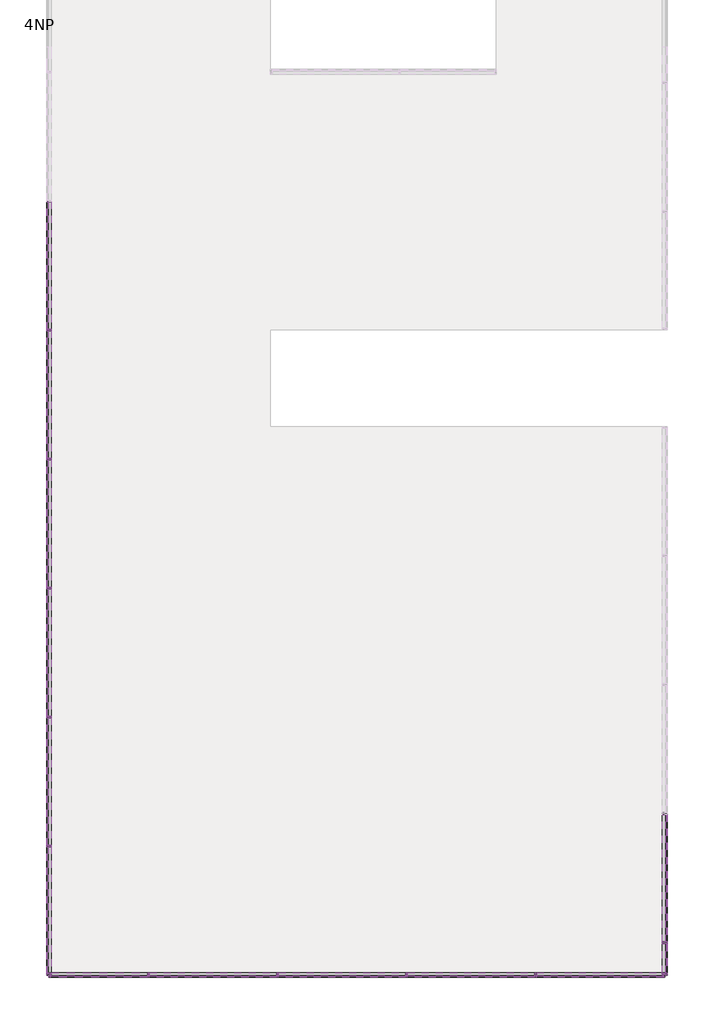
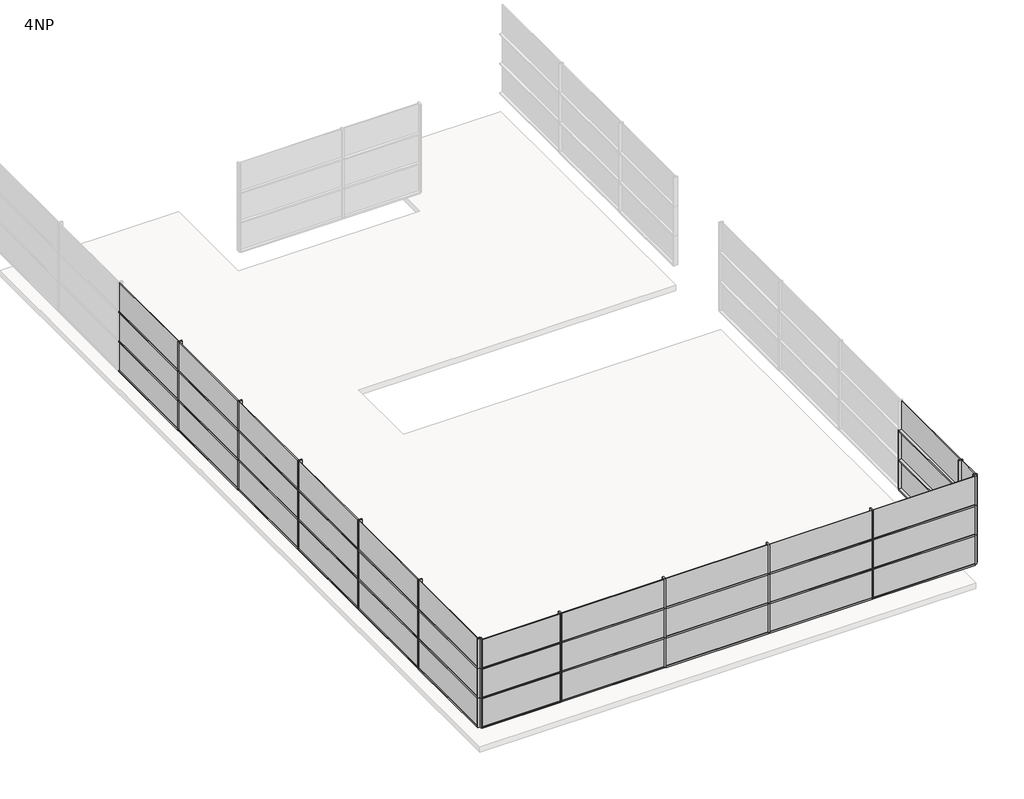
# One storey, part 1 of 3: 83 members, 39 plates.
"""IFC4 building model written with IfcOpenShell, lengths in millimetres."""

from ifc_helpers import new_model, si_unit, origin, place, context, project, spatial, transform, mapped, element, save
from components import rectangular_mullion_50_x_150mm_d99dc9be, rectangular_mullion_50_x_150mm_6588f46c, rectangular_mullion_50_x_150mm_a037c29c, rectangular_mullion_50_x_150mm_c2546fd4, rectangular_mullion_50_x_150mm_116cff39, rectangular_mullion_50_x_150mm_cd873b1a, system_panel_glazed_8e9402eb, system_panel_glazed_89ac83a7, system_panel_glazed_8c18451d, system_panel_glazed_2dc425e2

model = new_model("IFC4")

# Units and contexts
model_context = context("Model", 3, world=origin())
ifc_project = project(units=[si_unit("LENGTHUNIT", "METRE", prefix="MILLI")], contexts=[model_context])

# Site, building, storey
site = spatial("IfcSite", under=ifc_project)
building = spatial("IfcBuilding", under=site)
storey = spatial("IfcBuildingStorey", under=building, Name="4NP", Elevation=16000.0)

# Members
placement = place(None, origin())
rectangular_mullion_50_x_150mm_shape = rectangular_mullion_50_x_150mm_d99dc9be(model_context)
element("IfcMember", 1, ObjectType="Rectangular Mullion : 50 x 150mm", at=placement, inside=storey, context=model_context, shape_type="MappedRepresentation", body=[
    mapped(rectangular_mullion_50_x_150mm_shape, transform((13503.2660975, -18624.0160434, 18000.0), x_axis=(0.0, -1.0, 0.0), y_axis=(1.0, 0.0, 0.0), z_axis=(0.0, 0.0, 1.0))),
])
element("IfcMember", 2, ObjectType="Rectangular Mullion : 50 x 150mm", at=placement, inside=storey, context=model_context, shape_type="MappedRepresentation", body=[
    mapped(rectangular_mullion_50_x_150mm_shape, transform((13503.2660975, -18624.0160434, 19200.0), x_axis=(0.0, -1.0, 0.0), y_axis=(1.0, 0.0, 0.0), z_axis=(0.0, 0.0, 1.0))),
])
element("IfcMember", 3, ObjectType="Rectangular Mullion : 50 x 150mm", at=placement, inside=storey, context=model_context, shape_type="MappedRepresentation", body=[
    mapped(rectangular_mullion_50_x_150mm_shape, transform((13503.2660975, -22624.0160434, 18000.0), x_axis=(0.0, -1.0, 0.0), y_axis=(1.0, 0.0, 0.0), z_axis=(0.0, 0.0, 1.0))),
])
element("IfcMember", 4, ObjectType="Rectangular Mullion : 50 x 150mm", at=placement, inside=storey, context=model_context, shape_type="MappedRepresentation", body=[
    mapped(rectangular_mullion_50_x_150mm_shape, transform((13503.2660975, -22624.0160434, 19200.0), x_axis=(0.0, -1.0, 0.0), y_axis=(1.0, 0.0, 0.0), z_axis=(0.0, 0.0, 1.0))),
])
element("IfcMember", 5, ObjectType="Rectangular Mullion : 50 x 150mm", at=placement, inside=storey, context=model_context, shape_type="MappedRepresentation", body=[
    mapped(rectangular_mullion_50_x_150mm_shape, transform((13503.2660975, -22624.0160434, 20400.0), x_axis=(0.0, -1.0, 0.0), y_axis=(1.0, 0.0, 0.0), z_axis=(0.0, 0.0, 1.0))),
])
element("IfcMember", 6, ObjectType="Rectangular Mullion : 50 x 150mm", at=placement, inside=storey, context=model_context, shape_type="MappedRepresentation", body=[
    mapped(rectangular_mullion_50_x_150mm_shape, transform((9503.2660975, -23624.0160434, 18000.0), x_axis=(-1.0, 0.0, 0.0), y_axis=(0.0, -1.0, 0.0), z_axis=(0.0, 0.0, 1.0))),
])
element("IfcMember", 7, ObjectType="Rectangular Mullion : 50 x 150mm", at=placement, inside=storey, context=model_context, shape_type="MappedRepresentation", body=[
    mapped(rectangular_mullion_50_x_150mm_shape, transform((9503.2660975, -23624.0160434, 19200.0), x_axis=(-1.0, 0.0, 0.0), y_axis=(0.0, -1.0, 0.0), z_axis=(0.0, 0.0, 1.0))),
])
element("IfcMember", 8, ObjectType="Rectangular Mullion : 50 x 150mm", at=placement, inside=storey, context=model_context, shape_type="MappedRepresentation", body=[
    mapped(rectangular_mullion_50_x_150mm_shape, transform((9503.2660975, -23624.0160434, 20400.0), x_axis=(-1.0, 0.0, 0.0), y_axis=(0.0, -1.0, 0.0), z_axis=(0.0, 0.0, 1.0))),
])
element("IfcMember", 9, ObjectType="Rectangular Mullion : 50 x 150mm", at=placement, inside=storey, context=model_context, shape_type="MappedRepresentation", body=[
    mapped(rectangular_mullion_50_x_150mm_shape, transform((5503.2660975, -23624.0160434, 18000.0), x_axis=(-1.0, 0.0, 0.0), y_axis=(0.0, -1.0, 0.0), z_axis=(0.0, 0.0, 1.0))),
])
element("IfcMember", 10, ObjectType="Rectangular Mullion : 50 x 150mm", at=placement, inside=storey, context=model_context, shape_type="MappedRepresentation", body=[
    mapped(rectangular_mullion_50_x_150mm_shape, transform((5503.2660975, -23624.0160434, 19200.0), x_axis=(-1.0, 0.0, 0.0), y_axis=(0.0, -1.0, 0.0), z_axis=(0.0, 0.0, 1.0))),
])
element("IfcMember", 11, ObjectType="Rectangular Mullion : 50 x 150mm", at=placement, inside=storey, context=model_context, shape_type="MappedRepresentation", body=[
    mapped(rectangular_mullion_50_x_150mm_shape, transform((5503.2660975, -23624.0160434, 20400.0), x_axis=(-1.0, 0.0, 0.0), y_axis=(0.0, -1.0, 0.0), z_axis=(0.0, 0.0, 1.0))),
])
element("IfcMember", 12, ObjectType="Rectangular Mullion : 50 x 150mm", at=placement, inside=storey, context=model_context, shape_type="MappedRepresentation", body=[
    mapped(rectangular_mullion_50_x_150mm_shape, transform((1503.2660975, -23624.0160434, 18000.0), x_axis=(-1.0, 0.0, 0.0), y_axis=(0.0, -1.0, 0.0), z_axis=(0.0, 0.0, 1.0))),
])
element("IfcMember", 13, ObjectType="Rectangular Mullion : 50 x 150mm", at=placement, inside=storey, context=model_context, shape_type="MappedRepresentation", body=[
    mapped(rectangular_mullion_50_x_150mm_shape, transform((1503.2660975, -23624.0160434, 19200.0), x_axis=(-1.0, 0.0, 0.0), y_axis=(0.0, -1.0, 0.0), z_axis=(0.0, 0.0, 1.0))),
])
element("IfcMember", 14, ObjectType="Rectangular Mullion : 50 x 150mm", at=placement, inside=storey, context=model_context, shape_type="MappedRepresentation", body=[
    mapped(rectangular_mullion_50_x_150mm_shape, transform((1503.2660975, -23624.0160434, 20400.0), x_axis=(-1.0, 0.0, 0.0), y_axis=(0.0, -1.0, 0.0), z_axis=(0.0, 0.0, 1.0))),
])
element("IfcMember", 15, ObjectType="Rectangular Mullion : 50 x 150mm", at=placement, inside=storey, context=model_context, shape_type="MappedRepresentation", body=[
    mapped(rectangular_mullion_50_x_150mm_shape, transform((-2496.7339025, -23624.0160434, 18000.0), x_axis=(-1.0, 0.0, 0.0), y_axis=(0.0, -1.0, 0.0), z_axis=(0.0, 0.0, 1.0))),
])
element("IfcMember", 16, ObjectType="Rectangular Mullion : 50 x 150mm", at=placement, inside=storey, context=model_context, shape_type="MappedRepresentation", body=[
    mapped(rectangular_mullion_50_x_150mm_shape, transform((-2496.7339025, -23624.0160434, 19200.0), x_axis=(-1.0, 0.0, 0.0), y_axis=(0.0, -1.0, 0.0), z_axis=(0.0, 0.0, 1.0))),
])
element("IfcMember", 17, ObjectType="Rectangular Mullion : 50 x 150mm", at=placement, inside=storey, context=model_context, shape_type="MappedRepresentation", body=[
    mapped(rectangular_mullion_50_x_150mm_shape, transform((-2496.7339025, -23624.0160434, 20400.0), x_axis=(-1.0, 0.0, 0.0), y_axis=(0.0, -1.0, 0.0), z_axis=(0.0, 0.0, 1.0))),
])
element("IfcMember", 18, ObjectType="Rectangular Mullion : 50 x 150mm", at=placement, inside=storey, context=model_context, shape_type="MappedRepresentation", body=[
    mapped(rectangular_mullion_50_x_150mm_shape, transform((-5587.173406, -19624.0160434, 18000.0), x_axis=(0.0, 1.0, 0.0), y_axis=(-1.0, 0.0, 0.0), z_axis=(0.0, 0.0, 1.0))),
])
element("IfcMember", 19, ObjectType="Rectangular Mullion : 50 x 150mm", at=placement, inside=storey, context=model_context, shape_type="MappedRepresentation", body=[
    mapped(rectangular_mullion_50_x_150mm_shape, transform((-5587.173406, -19624.0160434, 19200.0), x_axis=(0.0, 1.0, 0.0), y_axis=(-1.0, 0.0, 0.0), z_axis=(0.0, 0.0, 1.0))),
])
element("IfcMember", 20, ObjectType="Rectangular Mullion : 50 x 150mm", at=placement, inside=storey, context=model_context, shape_type="MappedRepresentation", body=[
    mapped(rectangular_mullion_50_x_150mm_shape, transform((-5587.173406, -19624.0160434, 20400.0), x_axis=(0.0, 1.0, 0.0), y_axis=(-1.0, 0.0, 0.0), z_axis=(0.0, 0.0, 1.0))),
])
element("IfcMember", 21, ObjectType="Rectangular Mullion : 50 x 150mm", at=placement, inside=storey, context=model_context, shape_type="MappedRepresentation", body=[
    mapped(rectangular_mullion_50_x_150mm_shape, transform((-5587.173406, -15624.0160434, 18000.0), x_axis=(0.0, 1.0, 0.0), y_axis=(-1.0, 0.0, 0.0), z_axis=(0.0, 0.0, 1.0))),
])
element("IfcMember", 22, ObjectType="Rectangular Mullion : 50 x 150mm", at=placement, inside=storey, context=model_context, shape_type="MappedRepresentation", body=[
    mapped(rectangular_mullion_50_x_150mm_shape, transform((-5587.173406, -15624.0160434, 19200.0), x_axis=(0.0, 1.0, 0.0), y_axis=(-1.0, 0.0, 0.0), z_axis=(0.0, 0.0, 1.0))),
])
element("IfcMember", 23, ObjectType="Rectangular Mullion : 50 x 150mm", at=placement, inside=storey, context=model_context, shape_type="MappedRepresentation", body=[
    mapped(rectangular_mullion_50_x_150mm_shape, transform((-5587.173406, -15624.0160434, 20400.0), x_axis=(0.0, 1.0, 0.0), y_axis=(-1.0, 0.0, 0.0), z_axis=(0.0, 0.0, 1.0))),
])
element("IfcMember", 24, ObjectType="Rectangular Mullion : 50 x 150mm", at=placement, inside=storey, context=model_context, shape_type="MappedRepresentation", body=[
    mapped(rectangular_mullion_50_x_150mm_shape, transform((-5587.173406, -11624.0160434, 18000.0), x_axis=(0.0, 1.0, 0.0), y_axis=(-1.0, 0.0, 0.0), z_axis=(0.0, 0.0, 1.0))),
])
element("IfcMember", 25, ObjectType="Rectangular Mullion : 50 x 150mm", at=placement, inside=storey, context=model_context, shape_type="MappedRepresentation", body=[
    mapped(rectangular_mullion_50_x_150mm_shape, transform((-5587.173406, -11624.0160434, 19200.0), x_axis=(0.0, 1.0, 0.0), y_axis=(-1.0, 0.0, 0.0), z_axis=(0.0, 0.0, 1.0))),
])
element("IfcMember", 26, ObjectType="Rectangular Mullion : 50 x 150mm", at=placement, inside=storey, context=model_context, shape_type="MappedRepresentation", body=[
    mapped(rectangular_mullion_50_x_150mm_shape, transform((-5587.173406, -11624.0160434, 20400.0), x_axis=(0.0, 1.0, 0.0), y_axis=(-1.0, 0.0, 0.0), z_axis=(0.0, 0.0, 1.0))),
])
element("IfcMember", 27, ObjectType="Rectangular Mullion : 50 x 150mm", at=placement, inside=storey, context=model_context, shape_type="MappedRepresentation", body=[
    mapped(rectangular_mullion_50_x_150mm_shape, transform((-5587.173406, -7624.0160434, 18000.0), x_axis=(0.0, 1.0, 0.0), y_axis=(-1.0, 0.0, 0.0), z_axis=(0.0, 0.0, 1.0))),
])
element("IfcMember", 28, ObjectType="Rectangular Mullion : 50 x 150mm", at=placement, inside=storey, context=model_context, shape_type="MappedRepresentation", body=[
    mapped(rectangular_mullion_50_x_150mm_shape, transform((-5587.173406, -7624.0160434, 19200.0), x_axis=(0.0, 1.0, 0.0), y_axis=(-1.0, 0.0, 0.0), z_axis=(0.0, 0.0, 1.0))),
])
element("IfcMember", 29, ObjectType="Rectangular Mullion : 50 x 150mm", at=placement, inside=storey, context=model_context, shape_type="MappedRepresentation", body=[
    mapped(rectangular_mullion_50_x_150mm_shape, transform((-5587.173406, -7624.0160434, 20400.0), x_axis=(0.0, 1.0, 0.0), y_axis=(-1.0, 0.0, 0.0), z_axis=(0.0, 0.0, 1.0))),
])
element("IfcMember", 30, ObjectType="Rectangular Mullion : 50 x 150mm", at=placement, inside=storey, context=model_context, shape_type="MappedRepresentation", body=[
    mapped(rectangular_mullion_50_x_150mm_shape, transform((-5587.173406, -3624.0160434, 18000.0), x_axis=(0.0, 1.0, 0.0), y_axis=(-1.0, 0.0, 0.0), z_axis=(0.0, 0.0, 1.0))),
])
element("IfcMember", 31, ObjectType="Rectangular Mullion : 50 x 150mm", at=placement, inside=storey, context=model_context, shape_type="MappedRepresentation", body=[
    mapped(rectangular_mullion_50_x_150mm_shape, transform((-5587.173406, -3624.0160434, 19200.0), x_axis=(0.0, 1.0, 0.0), y_axis=(-1.0, 0.0, 0.0), z_axis=(0.0, 0.0, 1.0))),
])
element("IfcMember", 32, ObjectType="Rectangular Mullion : 50 x 150mm", at=placement, inside=storey, context=model_context, shape_type="MappedRepresentation", body=[
    mapped(rectangular_mullion_50_x_150mm_shape, transform((-5587.173406, -3624.0160434, 20400.0), x_axis=(0.0, 1.0, 0.0), y_axis=(-1.0, 0.0, 0.0), z_axis=(0.0, 0.0, 1.0))),
])
rectangular_mullion_50_x_150mm_2_shape = rectangular_mullion_50_x_150mm_6588f46c(model_context)
element("IfcMember", 33, ObjectType="Rectangular Mullion : 50 x 150mm", at=placement, inside=storey, context=model_context, shape_type="MappedRepresentation", body=[
    mapped(rectangular_mullion_50_x_150mm_2_shape, transform((13503.2660975, -23624.0160434, 18000.0), x_axis=(0.0, -1.0, 0.0), y_axis=(1.0, 0.0, 0.0), z_axis=(0.0, 0.0, 1.0))),
])
element("IfcMember", 34, ObjectType="Rectangular Mullion : 50 x 150mm", at=placement, inside=storey, context=model_context, shape_type="MappedRepresentation", body=[
    mapped(rectangular_mullion_50_x_150mm_2_shape, transform((13503.2660975, -23624.0160434, 19200.0), x_axis=(0.0, -1.0, 0.0), y_axis=(1.0, 0.0, 0.0), z_axis=(0.0, 0.0, 1.0))),
])
element("IfcMember", 35, ObjectType="Rectangular Mullion : 50 x 150mm", at=placement, inside=storey, context=model_context, shape_type="MappedRepresentation", body=[
    mapped(rectangular_mullion_50_x_150mm_2_shape, transform((13503.2660975, -23624.0160434, 20400.0), x_axis=(0.0, -1.0, 0.0), y_axis=(1.0, 0.0, 0.0), z_axis=(0.0, 0.0, 1.0))),
])
element("IfcMember", 36, ObjectType="Rectangular Mullion : 50 x 150mm", at=placement, inside=storey, context=model_context, shape_type="MappedRepresentation", body=[
    mapped(rectangular_mullion_50_x_150mm_2_shape, transform((-5587.173406, -23624.0160434, 18000.0), x_axis=(-1.0, 0.0, 0.0), y_axis=(0.0, -1.0, 0.0), z_axis=(0.0, 0.0, 1.0))),
])
element("IfcMember", 37, ObjectType="Rectangular Mullion : 50 x 150mm", at=placement, inside=storey, context=model_context, shape_type="MappedRepresentation", body=[
    mapped(rectangular_mullion_50_x_150mm_2_shape, transform((-5587.173406, -23624.0160434, 19200.0), x_axis=(-1.0, 0.0, 0.0), y_axis=(0.0, -1.0, 0.0), z_axis=(0.0, 0.0, 1.0))),
])
element("IfcMember", 38, ObjectType="Rectangular Mullion : 50 x 150mm", at=placement, inside=storey, context=model_context, shape_type="MappedRepresentation", body=[
    mapped(rectangular_mullion_50_x_150mm_2_shape, transform((-5587.173406, -23624.0160434, 20400.0), x_axis=(-1.0, 0.0, 0.0), y_axis=(0.0, -1.0, 0.0), z_axis=(0.0, 0.0, 1.0))),
])
rectangular_mullion_50_x_150mm_3_shape = rectangular_mullion_50_x_150mm_a037c29c(model_context)
element("IfcMember", 39, ObjectType="Rectangular Mullion : 50 x 150mm", at=placement, inside=storey, context=model_context, shape_type="MappedRepresentation", body=[
    mapped(rectangular_mullion_50_x_150mm_3_shape, transform((13503.2660975, -18649.0160434, 16800.0), x_axis=(0.0, 0.0, 1.0), y_axis=(1.0, 0.0, 0.0), z_axis=(0.0, 1.0, 0.0))),
])
element("IfcMember", 40, ObjectType="Rectangular Mullion : 50 x 150mm", at=placement, inside=storey, context=model_context, shape_type="MappedRepresentation", body=[
    mapped(rectangular_mullion_50_x_150mm_3_shape, transform((13503.2660975, -18649.0160434, 18000.0), x_axis=(0.0, 0.0, 1.0), y_axis=(1.0, 0.0, 0.0), z_axis=(0.0, 1.0, 0.0))),
])
element("IfcMember", 41, ObjectType="Rectangular Mullion : 50 x 150mm", at=placement, inside=storey, context=model_context, shape_type="MappedRepresentation", body=[
    mapped(rectangular_mullion_50_x_150mm_3_shape, transform((13503.2660975, -18649.0160434, 19200.0), x_axis=(0.0, 0.0, 1.0), y_axis=(1.0, 0.0, 0.0), z_axis=(0.0, 1.0, 0.0))),
])
element("IfcMember", 42, ObjectType="Rectangular Mullion : 50 x 150mm", at=placement, inside=storey, context=model_context, shape_type="MappedRepresentation", body=[
    mapped(rectangular_mullion_50_x_150mm_3_shape, transform((9478.2660975, -23624.0160434, 16800.0), x_axis=(0.0, 0.0, 1.0), y_axis=(0.0, -1.0, 0.0), z_axis=(1.0, 0.0, 0.0))),
])
element("IfcMember", 43, ObjectType="Rectangular Mullion : 50 x 150mm", at=placement, inside=storey, context=model_context, shape_type="MappedRepresentation", body=[
    mapped(rectangular_mullion_50_x_150mm_3_shape, transform((5478.2660975, -23624.0160434, 16800.0), x_axis=(0.0, 0.0, 1.0), y_axis=(0.0, -1.0, 0.0), z_axis=(1.0, 0.0, 0.0))),
])
element("IfcMember", 44, ObjectType="Rectangular Mullion : 50 x 150mm", at=placement, inside=storey, context=model_context, shape_type="MappedRepresentation", body=[
    mapped(rectangular_mullion_50_x_150mm_3_shape, transform((1478.2660975, -23624.0160434, 16800.0), x_axis=(0.0, 0.0, 1.0), y_axis=(0.0, -1.0, 0.0), z_axis=(1.0, 0.0, 0.0))),
])
element("IfcMember", 45, ObjectType="Rectangular Mullion : 50 x 150mm", at=placement, inside=storey, context=model_context, shape_type="MappedRepresentation", body=[
    mapped(rectangular_mullion_50_x_150mm_3_shape, transform((9478.2660975, -23624.0160434, 18000.0), x_axis=(0.0, 0.0, 1.0), y_axis=(0.0, -1.0, 0.0), z_axis=(1.0, 0.0, 0.0))),
])
element("IfcMember", 46, ObjectType="Rectangular Mullion : 50 x 150mm", at=placement, inside=storey, context=model_context, shape_type="MappedRepresentation", body=[
    mapped(rectangular_mullion_50_x_150mm_3_shape, transform((5478.2660975, -23624.0160434, 18000.0), x_axis=(0.0, 0.0, 1.0), y_axis=(0.0, -1.0, 0.0), z_axis=(1.0, 0.0, 0.0))),
])
element("IfcMember", 47, ObjectType="Rectangular Mullion : 50 x 150mm", at=placement, inside=storey, context=model_context, shape_type="MappedRepresentation", body=[
    mapped(rectangular_mullion_50_x_150mm_3_shape, transform((1478.2660975, -23624.0160434, 18000.0), x_axis=(0.0, 0.0, 1.0), y_axis=(0.0, -1.0, 0.0), z_axis=(1.0, 0.0, 0.0))),
])
element("IfcMember", 48, ObjectType="Rectangular Mullion : 50 x 150mm", at=placement, inside=storey, context=model_context, shape_type="MappedRepresentation", body=[
    mapped(rectangular_mullion_50_x_150mm_3_shape, transform((9478.2660975, -23624.0160434, 19200.0), x_axis=(0.0, 0.0, 1.0), y_axis=(0.0, -1.0, 0.0), z_axis=(1.0, 0.0, 0.0))),
])
element("IfcMember", 49, ObjectType="Rectangular Mullion : 50 x 150mm", at=placement, inside=storey, context=model_context, shape_type="MappedRepresentation", body=[
    mapped(rectangular_mullion_50_x_150mm_3_shape, transform((5478.2660975, -23624.0160434, 19200.0), x_axis=(0.0, 0.0, 1.0), y_axis=(0.0, -1.0, 0.0), z_axis=(1.0, 0.0, 0.0))),
])
element("IfcMember", 50, ObjectType="Rectangular Mullion : 50 x 150mm", at=placement, inside=storey, context=model_context, shape_type="MappedRepresentation", body=[
    mapped(rectangular_mullion_50_x_150mm_3_shape, transform((1478.2660975, -23624.0160434, 19200.0), x_axis=(0.0, 0.0, 1.0), y_axis=(0.0, -1.0, 0.0), z_axis=(1.0, 0.0, 0.0))),
])
element("IfcMember", 51, ObjectType="Rectangular Mullion : 50 x 150mm", at=placement, inside=storey, context=model_context, shape_type="MappedRepresentation", body=[
    mapped(rectangular_mullion_50_x_150mm_3_shape, transform((-5587.173406, -19599.0160434, 16800.0), x_axis=(0.0, 0.0, 1.0), y_axis=(-1.0, 0.0, 0.0), z_axis=(0.0, -1.0, 0.0))),
])
element("IfcMember", 52, ObjectType="Rectangular Mullion : 50 x 150mm", at=placement, inside=storey, context=model_context, shape_type="MappedRepresentation", body=[
    mapped(rectangular_mullion_50_x_150mm_3_shape, transform((-5587.173406, -15599.0160434, 16800.0), x_axis=(0.0, 0.0, 1.0), y_axis=(-1.0, 0.0, 0.0), z_axis=(0.0, -1.0, 0.0))),
])
element("IfcMember", 53, ObjectType="Rectangular Mullion : 50 x 150mm", at=placement, inside=storey, context=model_context, shape_type="MappedRepresentation", body=[
    mapped(rectangular_mullion_50_x_150mm_3_shape, transform((-5587.173406, -11599.0160434, 16800.0), x_axis=(0.0, 0.0, 1.0), y_axis=(-1.0, 0.0, 0.0), z_axis=(0.0, -1.0, 0.0))),
])
element("IfcMember", 54, ObjectType="Rectangular Mullion : 50 x 150mm", at=placement, inside=storey, context=model_context, shape_type="MappedRepresentation", body=[
    mapped(rectangular_mullion_50_x_150mm_3_shape, transform((-5587.173406, -7599.0160434, 16800.0), x_axis=(0.0, 0.0, 1.0), y_axis=(-1.0, 0.0, 0.0), z_axis=(0.0, -1.0, 0.0))),
])
element("IfcMember", 55, ObjectType="Rectangular Mullion : 50 x 150mm", at=placement, inside=storey, context=model_context, shape_type="MappedRepresentation", body=[
    mapped(rectangular_mullion_50_x_150mm_3_shape, transform((-5587.173406, -3599.0160434, 16800.0), x_axis=(0.0, 0.0, 1.0), y_axis=(-1.0, 0.0, 0.0), z_axis=(0.0, -1.0, 0.0))),
])
element("IfcMember", 56, ObjectType="Rectangular Mullion : 50 x 150mm", at=placement, inside=storey, context=model_context, shape_type="MappedRepresentation", body=[
    mapped(rectangular_mullion_50_x_150mm_3_shape, transform((-5587.173406, -19599.0160434, 18000.0), x_axis=(0.0, 0.0, 1.0), y_axis=(-1.0, 0.0, 0.0), z_axis=(0.0, -1.0, 0.0))),
])
element("IfcMember", 57, ObjectType="Rectangular Mullion : 50 x 150mm", at=placement, inside=storey, context=model_context, shape_type="MappedRepresentation", body=[
    mapped(rectangular_mullion_50_x_150mm_3_shape, transform((-5587.173406, -15599.0160434, 18000.0), x_axis=(0.0, 0.0, 1.0), y_axis=(-1.0, 0.0, 0.0), z_axis=(0.0, -1.0, 0.0))),
])
element("IfcMember", 58, ObjectType="Rectangular Mullion : 50 x 150mm", at=placement, inside=storey, context=model_context, shape_type="MappedRepresentation", body=[
    mapped(rectangular_mullion_50_x_150mm_3_shape, transform((-5587.173406, -11599.0160434, 18000.0), x_axis=(0.0, 0.0, 1.0), y_axis=(-1.0, 0.0, 0.0), z_axis=(0.0, -1.0, 0.0))),
])
element("IfcMember", 59, ObjectType="Rectangular Mullion : 50 x 150mm", at=placement, inside=storey, context=model_context, shape_type="MappedRepresentation", body=[
    mapped(rectangular_mullion_50_x_150mm_3_shape, transform((-5587.173406, -7599.0160434, 18000.0), x_axis=(0.0, 0.0, 1.0), y_axis=(-1.0, 0.0, 0.0), z_axis=(0.0, -1.0, 0.0))),
])
element("IfcMember", 60, ObjectType="Rectangular Mullion : 50 x 150mm", at=placement, inside=storey, context=model_context, shape_type="MappedRepresentation", body=[
    mapped(rectangular_mullion_50_x_150mm_3_shape, transform((-5587.173406, -3599.0160434, 18000.0), x_axis=(0.0, 0.0, 1.0), y_axis=(-1.0, 0.0, 0.0), z_axis=(0.0, -1.0, 0.0))),
])
element("IfcMember", 61, ObjectType="Rectangular Mullion : 50 x 150mm", at=placement, inside=storey, context=model_context, shape_type="MappedRepresentation", body=[
    mapped(rectangular_mullion_50_x_150mm_3_shape, transform((-5587.173406, -19599.0160434, 19200.0), x_axis=(0.0, 0.0, 1.0), y_axis=(-1.0, 0.0, 0.0), z_axis=(0.0, -1.0, 0.0))),
])
element("IfcMember", 62, ObjectType="Rectangular Mullion : 50 x 150mm", at=placement, inside=storey, context=model_context, shape_type="MappedRepresentation", body=[
    mapped(rectangular_mullion_50_x_150mm_3_shape, transform((-5587.173406, -15599.0160434, 19200.0), x_axis=(0.0, 0.0, 1.0), y_axis=(-1.0, 0.0, 0.0), z_axis=(0.0, -1.0, 0.0))),
])
element("IfcMember", 63, ObjectType="Rectangular Mullion : 50 x 150mm", at=placement, inside=storey, context=model_context, shape_type="MappedRepresentation", body=[
    mapped(rectangular_mullion_50_x_150mm_3_shape, transform((-5587.173406, -11599.0160434, 19200.0), x_axis=(0.0, 0.0, 1.0), y_axis=(-1.0, 0.0, 0.0), z_axis=(0.0, -1.0, 0.0))),
])
element("IfcMember", 64, ObjectType="Rectangular Mullion : 50 x 150mm", at=placement, inside=storey, context=model_context, shape_type="MappedRepresentation", body=[
    mapped(rectangular_mullion_50_x_150mm_3_shape, transform((-5587.173406, -7599.0160434, 19200.0), x_axis=(0.0, 0.0, 1.0), y_axis=(-1.0, 0.0, 0.0), z_axis=(0.0, -1.0, 0.0))),
])
element("IfcMember", 65, ObjectType="Rectangular Mullion : 50 x 150mm", at=placement, inside=storey, context=model_context, shape_type="MappedRepresentation", body=[
    mapped(rectangular_mullion_50_x_150mm_3_shape, transform((-5587.173406, -3599.0160434, 19200.0), x_axis=(0.0, 0.0, 1.0), y_axis=(-1.0, 0.0, 0.0), z_axis=(0.0, -1.0, 0.0))),
])
rectangular_mullion_50_x_150mm_4_shape = rectangular_mullion_50_x_150mm_c2546fd4(model_context)
element("IfcMember", 66, ObjectType="Rectangular Mullion : 50 x 150mm", at=placement, inside=storey, context=model_context, shape_type="MappedRepresentation", body=[
    mapped(rectangular_mullion_50_x_150mm_4_shape, transform((13453.2660975, -23624.0160434, 16800.0), x_axis=(0.0, 0.0, 1.0), y_axis=(0.0, -1.0, 0.0), z_axis=(1.0, 0.0, 0.0))),
])
element("IfcMember", 67, ObjectType="Rectangular Mullion : 50 x 150mm", at=placement, inside=storey, context=model_context, shape_type="MappedRepresentation", body=[
    mapped(rectangular_mullion_50_x_150mm_4_shape, transform((13453.2660975, -23624.0160434, 18000.0), x_axis=(0.0, 0.0, 1.0), y_axis=(0.0, -1.0, 0.0), z_axis=(1.0, 0.0, 0.0))),
])
element("IfcMember", 68, ObjectType="Rectangular Mullion : 50 x 150mm", at=placement, inside=storey, context=model_context, shape_type="MappedRepresentation", body=[
    mapped(rectangular_mullion_50_x_150mm_4_shape, transform((13453.2660975, -23624.0160434, 19200.0), x_axis=(0.0, 0.0, 1.0), y_axis=(0.0, -1.0, 0.0), z_axis=(1.0, 0.0, 0.0))),
])
element("IfcMember", 69, ObjectType="Rectangular Mullion : 50 x 150mm", at=placement, inside=storey, context=model_context, shape_type="MappedRepresentation", body=[
    mapped(rectangular_mullion_50_x_150mm_4_shape, transform((-5587.173406, -23574.0160434, 16800.0), x_axis=(0.0, 0.0, 1.0), y_axis=(-1.0, 0.0, 0.0), z_axis=(0.0, -1.0, 0.0))),
])
element("IfcMember", 70, ObjectType="Rectangular Mullion : 50 x 150mm", at=placement, inside=storey, context=model_context, shape_type="MappedRepresentation", body=[
    mapped(rectangular_mullion_50_x_150mm_4_shape, transform((-5587.173406, -23574.0160434, 18000.0), x_axis=(0.0, 0.0, 1.0), y_axis=(-1.0, 0.0, 0.0), z_axis=(0.0, -1.0, 0.0))),
])
element("IfcMember", 71, ObjectType="Rectangular Mullion : 50 x 150mm", at=placement, inside=storey, context=model_context, shape_type="MappedRepresentation", body=[
    mapped(rectangular_mullion_50_x_150mm_4_shape, transform((-5587.173406, -23574.0160434, 19200.0), x_axis=(0.0, 0.0, 1.0), y_axis=(-1.0, 0.0, 0.0), z_axis=(0.0, -1.0, 0.0))),
])
element("IfcMember", 72, ObjectType="Rectangular Mullion : 50 x 150mm", at=placement, inside=storey, context=model_context, shape_type="MappedRepresentation", body=[
    mapped(rectangular_mullion_50_x_150mm_2_shape, transform((13503.2660975, -23624.0160434, 16800.0), x_axis=(1.0, 0.0, 0.0), y_axis=(0.0, -1.0, 0.0), z_axis=(0.0, 0.0, -1.0))),
])
element("IfcMember", 73, ObjectType="Rectangular Mullion : 50 x 150mm", at=placement, inside=storey, context=model_context, shape_type="MappedRepresentation", body=[
    mapped(rectangular_mullion_50_x_150mm_2_shape, transform((13503.2660975, -23624.0160434, 18000.0), x_axis=(1.0, 0.0, 0.0), y_axis=(0.0, -1.0, 0.0), z_axis=(0.0, 0.0, -1.0))),
])
element("IfcMember", 74, ObjectType="Rectangular Mullion : 50 x 150mm", at=placement, inside=storey, context=model_context, shape_type="MappedRepresentation", body=[
    mapped(rectangular_mullion_50_x_150mm_2_shape, transform((13503.2660975, -23624.0160434, 19200.0), x_axis=(1.0, 0.0, 0.0), y_axis=(0.0, -1.0, 0.0), z_axis=(0.0, 0.0, -1.0))),
])
element("IfcMember", 75, ObjectType="Rectangular Mullion : 50 x 150mm", at=placement, inside=storey, context=model_context, shape_type="MappedRepresentation", body=[
    mapped(rectangular_mullion_50_x_150mm_2_shape, transform((-5587.173406, -23624.0160434, 16800.0), x_axis=(0.0, -1.0, 0.0), y_axis=(-1.0, 0.0, 0.0), z_axis=(0.0, 0.0, -1.0))),
])
element("IfcMember", 76, ObjectType="Rectangular Mullion : 50 x 150mm", at=placement, inside=storey, context=model_context, shape_type="MappedRepresentation", body=[
    mapped(rectangular_mullion_50_x_150mm_2_shape, transform((-5587.173406, -23624.0160434, 18000.0), x_axis=(0.0, -1.0, 0.0), y_axis=(-1.0, 0.0, 0.0), z_axis=(0.0, 0.0, -1.0))),
])
element("IfcMember", 77, ObjectType="Rectangular Mullion : 50 x 150mm", at=placement, inside=storey, context=model_context, shape_type="MappedRepresentation", body=[
    mapped(rectangular_mullion_50_x_150mm_2_shape, transform((-5587.173406, -23624.0160434, 19200.0), x_axis=(0.0, -1.0, 0.0), y_axis=(-1.0, 0.0, 0.0), z_axis=(0.0, 0.0, -1.0))),
])
rectangular_mullion_50_x_150mm_5_shape = rectangular_mullion_50_x_150mm_116cff39(model_context)
element("IfcMember", 78, ObjectType="Rectangular Mullion : 50 x 150mm", at=placement, inside=storey, context=model_context, shape_type="MappedRepresentation", body=[
    mapped(rectangular_mullion_50_x_150mm_5_shape, transform((13503.2660975, -22649.0160434, 16800.0), x_axis=(0.0, 0.0, 1.0), y_axis=(1.0, 0.0, 0.0), z_axis=(0.0, 1.0, 0.0))),
])
element("IfcMember", 79, ObjectType="Rectangular Mullion : 50 x 150mm", at=placement, inside=storey, context=model_context, shape_type="MappedRepresentation", body=[
    mapped(rectangular_mullion_50_x_150mm_5_shape, transform((13503.2660975, -22649.0160434, 18000.0), x_axis=(0.0, 0.0, 1.0), y_axis=(1.0, 0.0, 0.0), z_axis=(0.0, 1.0, 0.0))),
])
element("IfcMember", 80, ObjectType="Rectangular Mullion : 50 x 150mm", at=placement, inside=storey, context=model_context, shape_type="MappedRepresentation", body=[
    mapped(rectangular_mullion_50_x_150mm_5_shape, transform((13503.2660975, -22649.0160434, 19200.0), x_axis=(0.0, 0.0, 1.0), y_axis=(1.0, 0.0, 0.0), z_axis=(0.0, 1.0, 0.0))),
])
rectangular_mullion_50_x_150mm_6_shape = rectangular_mullion_50_x_150mm_cd873b1a(model_context)
element("IfcMember", 81, ObjectType="Rectangular Mullion : 50 x 150mm", at=placement, inside=storey, context=model_context, shape_type="MappedRepresentation", body=[
    mapped(rectangular_mullion_50_x_150mm_6_shape, transform((-2521.7339025, -23624.0160434, 16800.0), x_axis=(0.0, 0.0, 1.0), y_axis=(0.0, -1.0, 0.0), z_axis=(1.0, 0.0, 0.0))),
])
element("IfcMember", 82, ObjectType="Rectangular Mullion : 50 x 150mm", at=placement, inside=storey, context=model_context, shape_type="MappedRepresentation", body=[
    mapped(rectangular_mullion_50_x_150mm_6_shape, transform((-2521.7339025, -23624.0160434, 18000.0), x_axis=(0.0, 0.0, 1.0), y_axis=(0.0, -1.0, 0.0), z_axis=(1.0, 0.0, 0.0))),
])
element("IfcMember", 83, ObjectType="Rectangular Mullion : 50 x 150mm", at=placement, inside=storey, context=model_context, shape_type="MappedRepresentation", body=[
    mapped(rectangular_mullion_50_x_150mm_6_shape, transform((-2521.7339025, -23624.0160434, 19200.0), x_axis=(0.0, 0.0, 1.0), y_axis=(0.0, -1.0, 0.0), z_axis=(1.0, 0.0, 0.0))),
])

# Plates
system_panel_glazed_shape = system_panel_glazed_8e9402eb(model_context)
element("IfcPlate", 84, ObjectType="System Panel : Glazed", at=placement, inside=storey, context=model_context, shape_type="MappedRepresentation", body=[
    mapped(system_panel_glazed_shape, transform((-5587.173406, -21611.5160434, 16825.0), x_axis=(0.0, 1.0, 0.0), y_axis=(-1.0, 0.0, 0.0), z_axis=(0.0, 0.0, 1.0))),
])
element("IfcPlate", 85, ObjectType="System Panel : Glazed", at=placement, inside=storey, context=model_context, shape_type="MappedRepresentation", body=[
    mapped(system_panel_glazed_shape, transform((-5587.173406, -21611.5160434, 18025.0), x_axis=(0.0, 1.0, 0.0), y_axis=(-1.0, 0.0, 0.0), z_axis=(0.0, 0.0, 1.0))),
])
element("IfcPlate", 86, ObjectType="System Panel : Glazed", at=placement, inside=storey, context=model_context, shape_type="MappedRepresentation", body=[
    mapped(system_panel_glazed_shape, transform((-5587.173406, -21611.5160434, 19225.0), x_axis=(0.0, 1.0, 0.0), y_axis=(-1.0, 0.0, 0.0), z_axis=(0.0, 0.0, 1.0))),
])
element("IfcPlate", 87, ObjectType="System Panel : Glazed", at=placement, inside=storey, context=model_context, shape_type="MappedRepresentation", body=[
    mapped(system_panel_glazed_shape, transform((11490.7660975, -23624.0160434, 16825.0), x_axis=(-1.0, 0.0, 0.0), y_axis=(0.0, -1.0, 0.0), z_axis=(0.0, 0.0, 1.0))),
])
element("IfcPlate", 88, ObjectType="System Panel : Glazed", at=placement, inside=storey, context=model_context, shape_type="MappedRepresentation", body=[
    mapped(system_panel_glazed_shape, transform((11490.7660975, -23624.0160434, 18025.0), x_axis=(-1.0, 0.0, 0.0), y_axis=(0.0, -1.0, 0.0), z_axis=(0.0, 0.0, 1.0))),
])
element("IfcPlate", 89, ObjectType="System Panel : Glazed", at=placement, inside=storey, context=model_context, shape_type="MappedRepresentation", body=[
    mapped(system_panel_glazed_shape, transform((11490.7660975, -23624.0160434, 19225.0), x_axis=(-1.0, 0.0, 0.0), y_axis=(0.0, -1.0, 0.0), z_axis=(0.0, 0.0, 1.0))),
])
system_panel_glazed_2_shape = system_panel_glazed_89ac83a7(model_context)
element("IfcPlate", 90, ObjectType="System Panel : Glazed", at=placement, inside=storey, context=model_context, shape_type="MappedRepresentation", body=[
    mapped(system_panel_glazed_2_shape, transform((-5587.173406, -17624.0160434, 16825.0), x_axis=(0.0, 1.0, 0.0), y_axis=(-1.0, 0.0, 0.0), z_axis=(0.0, 0.0, 1.0))),
])
element("IfcPlate", 91, ObjectType="System Panel : Glazed", at=placement, inside=storey, context=model_context, shape_type="MappedRepresentation", body=[
    mapped(system_panel_glazed_2_shape, transform((-5587.173406, -13624.0160434, 16825.0), x_axis=(0.0, 1.0, 0.0), y_axis=(-1.0, 0.0, 0.0), z_axis=(0.0, 0.0, 1.0))),
])
element("IfcPlate", 92, ObjectType="System Panel : Glazed", at=placement, inside=storey, context=model_context, shape_type="MappedRepresentation", body=[
    mapped(system_panel_glazed_2_shape, transform((-5587.173406, -9624.0160434, 16825.0), x_axis=(0.0, 1.0, 0.0), y_axis=(-1.0, 0.0, 0.0), z_axis=(0.0, 0.0, 1.0))),
])
element("IfcPlate", 93, ObjectType="System Panel : Glazed", at=placement, inside=storey, context=model_context, shape_type="MappedRepresentation", body=[
    mapped(system_panel_glazed_2_shape, transform((-5587.173406, -5624.0160434, 16825.0), x_axis=(0.0, 1.0, 0.0), y_axis=(-1.0, 0.0, 0.0), z_axis=(0.0, 0.0, 1.0))),
])
element("IfcPlate", 94, ObjectType="System Panel : Glazed", at=placement, inside=storey, context=model_context, shape_type="MappedRepresentation", body=[
    mapped(system_panel_glazed_2_shape, transform((-5587.173406, -1624.0160434, 16825.0), x_axis=(0.0, 1.0, 0.0), y_axis=(-1.0, 0.0, 0.0), z_axis=(0.0, 0.0, 1.0))),
])
element("IfcPlate", 95, ObjectType="System Panel : Glazed", at=placement, inside=storey, context=model_context, shape_type="MappedRepresentation", body=[
    mapped(system_panel_glazed_2_shape, transform((-5587.173406, -17624.0160434, 18025.0), x_axis=(0.0, 1.0, 0.0), y_axis=(-1.0, 0.0, 0.0), z_axis=(0.0, 0.0, 1.0))),
])
element("IfcPlate", 96, ObjectType="System Panel : Glazed", at=placement, inside=storey, context=model_context, shape_type="MappedRepresentation", body=[
    mapped(system_panel_glazed_2_shape, transform((-5587.173406, -13624.0160434, 18025.0), x_axis=(0.0, 1.0, 0.0), y_axis=(-1.0, 0.0, 0.0), z_axis=(0.0, 0.0, 1.0))),
])
element("IfcPlate", 97, ObjectType="System Panel : Glazed", at=placement, inside=storey, context=model_context, shape_type="MappedRepresentation", body=[
    mapped(system_panel_glazed_2_shape, transform((-5587.173406, -9624.0160434, 18025.0), x_axis=(0.0, 1.0, 0.0), y_axis=(-1.0, 0.0, 0.0), z_axis=(0.0, 0.0, 1.0))),
])
element("IfcPlate", 98, ObjectType="System Panel : Glazed", at=placement, inside=storey, context=model_context, shape_type="MappedRepresentation", body=[
    mapped(system_panel_glazed_2_shape, transform((-5587.173406, -5624.0160434, 18025.0), x_axis=(0.0, 1.0, 0.0), y_axis=(-1.0, 0.0, 0.0), z_axis=(0.0, 0.0, 1.0))),
])
element("IfcPlate", 99, ObjectType="System Panel : Glazed", at=placement, inside=storey, context=model_context, shape_type="MappedRepresentation", body=[
    mapped(system_panel_glazed_2_shape, transform((-5587.173406, -1624.0160434, 18025.0), x_axis=(0.0, 1.0, 0.0), y_axis=(-1.0, 0.0, 0.0), z_axis=(0.0, 0.0, 1.0))),
])
element("IfcPlate", 100, ObjectType="System Panel : Glazed", at=placement, inside=storey, context=model_context, shape_type="MappedRepresentation", body=[
    mapped(system_panel_glazed_2_shape, transform((-5587.173406, -17624.0160434, 19225.0), x_axis=(0.0, 1.0, 0.0), y_axis=(-1.0, 0.0, 0.0), z_axis=(0.0, 0.0, 1.0))),
])
element("IfcPlate", 101, ObjectType="System Panel : Glazed", at=placement, inside=storey, context=model_context, shape_type="MappedRepresentation", body=[
    mapped(system_panel_glazed_2_shape, transform((-5587.173406, -13624.0160434, 19225.0), x_axis=(0.0, 1.0, 0.0), y_axis=(-1.0, 0.0, 0.0), z_axis=(0.0, 0.0, 1.0))),
])
element("IfcPlate", 102, ObjectType="System Panel : Glazed", at=placement, inside=storey, context=model_context, shape_type="MappedRepresentation", body=[
    mapped(system_panel_glazed_2_shape, transform((-5587.173406, -9624.0160434, 19225.0), x_axis=(0.0, 1.0, 0.0), y_axis=(-1.0, 0.0, 0.0), z_axis=(0.0, 0.0, 1.0))),
])
element("IfcPlate", 103, ObjectType="System Panel : Glazed", at=placement, inside=storey, context=model_context, shape_type="MappedRepresentation", body=[
    mapped(system_panel_glazed_2_shape, transform((-5587.173406, -5624.0160434, 19225.0), x_axis=(0.0, 1.0, 0.0), y_axis=(-1.0, 0.0, 0.0), z_axis=(0.0, 0.0, 1.0))),
])
element("IfcPlate", 104, ObjectType="System Panel : Glazed", at=placement, inside=storey, context=model_context, shape_type="MappedRepresentation", body=[
    mapped(system_panel_glazed_2_shape, transform((-5587.173406, -1624.0160434, 19225.0), x_axis=(0.0, 1.0, 0.0), y_axis=(-1.0, 0.0, 0.0), z_axis=(0.0, 0.0, 1.0))),
])
element("IfcPlate", 105, ObjectType="System Panel : Glazed", at=placement, inside=storey, context=model_context, shape_type="MappedRepresentation", body=[
    mapped(system_panel_glazed_2_shape, transform((7503.2660975, -23624.0160434, 16825.0), x_axis=(-1.0, 0.0, 0.0), y_axis=(0.0, -1.0, 0.0), z_axis=(0.0, 0.0, 1.0))),
])
element("IfcPlate", 106, ObjectType="System Panel : Glazed", at=placement, inside=storey, context=model_context, shape_type="MappedRepresentation", body=[
    mapped(system_panel_glazed_2_shape, transform((3503.2660975, -23624.0160434, 16825.0), x_axis=(-1.0, 0.0, 0.0), y_axis=(0.0, -1.0, 0.0), z_axis=(0.0, 0.0, 1.0))),
])
element("IfcPlate", 107, ObjectType="System Panel : Glazed", at=placement, inside=storey, context=model_context, shape_type="MappedRepresentation", body=[
    mapped(system_panel_glazed_2_shape, transform((-496.7339025, -23624.0160434, 16825.0), x_axis=(-1.0, 0.0, 0.0), y_axis=(0.0, -1.0, 0.0), z_axis=(0.0, 0.0, 1.0))),
])
element("IfcPlate", 108, ObjectType="System Panel : Glazed", at=placement, inside=storey, context=model_context, shape_type="MappedRepresentation", body=[
    mapped(system_panel_glazed_2_shape, transform((7503.2660975, -23624.0160434, 18025.0), x_axis=(-1.0, 0.0, 0.0), y_axis=(0.0, -1.0, 0.0), z_axis=(0.0, 0.0, 1.0))),
])
element("IfcPlate", 109, ObjectType="System Panel : Glazed", at=placement, inside=storey, context=model_context, shape_type="MappedRepresentation", body=[
    mapped(system_panel_glazed_2_shape, transform((3503.2660975, -23624.0160434, 18025.0), x_axis=(-1.0, 0.0, 0.0), y_axis=(0.0, -1.0, 0.0), z_axis=(0.0, 0.0, 1.0))),
])
element("IfcPlate", 110, ObjectType="System Panel : Glazed", at=placement, inside=storey, context=model_context, shape_type="MappedRepresentation", body=[
    mapped(system_panel_glazed_2_shape, transform((-496.7339025, -23624.0160434, 18025.0), x_axis=(-1.0, 0.0, 0.0), y_axis=(0.0, -1.0, 0.0), z_axis=(0.0, 0.0, 1.0))),
])
element("IfcPlate", 111, ObjectType="System Panel : Glazed", at=placement, inside=storey, context=model_context, shape_type="MappedRepresentation", body=[
    mapped(system_panel_glazed_2_shape, transform((7503.2660975, -23624.0160434, 19225.0), x_axis=(-1.0, 0.0, 0.0), y_axis=(0.0, -1.0, 0.0), z_axis=(0.0, 0.0, 1.0))),
])
element("IfcPlate", 112, ObjectType="System Panel : Glazed", at=placement, inside=storey, context=model_context, shape_type="MappedRepresentation", body=[
    mapped(system_panel_glazed_2_shape, transform((3503.2660975, -23624.0160434, 19225.0), x_axis=(-1.0, 0.0, 0.0), y_axis=(0.0, -1.0, 0.0), z_axis=(0.0, 0.0, 1.0))),
])
element("IfcPlate", 113, ObjectType="System Panel : Glazed", at=placement, inside=storey, context=model_context, shape_type="MappedRepresentation", body=[
    mapped(system_panel_glazed_2_shape, transform((-496.7339025, -23624.0160434, 19225.0), x_axis=(-1.0, 0.0, 0.0), y_axis=(0.0, -1.0, 0.0), z_axis=(0.0, 0.0, 1.0))),
])
element("IfcPlate", 114, ObjectType="System Panel : Glazed", at=placement, inside=storey, context=model_context, shape_type="MappedRepresentation", body=[
    mapped(system_panel_glazed_2_shape, transform((13503.2660975, -20624.0160434, 16825.0), x_axis=(0.0, -1.0, 0.0), y_axis=(1.0, 0.0, 0.0), z_axis=(0.0, 0.0, 1.0))),
])
element("IfcPlate", 115, ObjectType="System Panel : Glazed", at=placement, inside=storey, context=model_context, shape_type="MappedRepresentation", body=[
    mapped(system_panel_glazed_2_shape, transform((13503.2660975, -20624.0160434, 18025.0), x_axis=(0.0, -1.0, 0.0), y_axis=(1.0, 0.0, 0.0), z_axis=(0.0, 0.0, 1.0))),
])
element("IfcPlate", 116, ObjectType="System Panel : Glazed", at=placement, inside=storey, context=model_context, shape_type="MappedRepresentation", body=[
    mapped(system_panel_glazed_2_shape, transform((13503.2660975, -20624.0160434, 19225.0), x_axis=(0.0, -1.0, 0.0), y_axis=(1.0, 0.0, 0.0), z_axis=(0.0, 0.0, 1.0))),
])
system_panel_glazed_3_shape = system_panel_glazed_8c18451d(model_context)
element("IfcPlate", 117, ObjectType="System Panel : Glazed", at=placement, inside=storey, context=model_context, shape_type="MappedRepresentation", body=[
    mapped(system_panel_glazed_3_shape, transform((13503.2660975, -23111.5160434, 16825.0), x_axis=(0.0, -1.0, 0.0), y_axis=(1.0, 0.0, 0.0), z_axis=(0.0, 0.0, 1.0))),
])
element("IfcPlate", 118, ObjectType="System Panel : Glazed", at=placement, inside=storey, context=model_context, shape_type="MappedRepresentation", body=[
    mapped(system_panel_glazed_3_shape, transform((13503.2660975, -23111.5160434, 18025.0), x_axis=(0.0, -1.0, 0.0), y_axis=(1.0, 0.0, 0.0), z_axis=(0.0, 0.0, 1.0))),
])
element("IfcPlate", 119, ObjectType="System Panel : Glazed", at=placement, inside=storey, context=model_context, shape_type="MappedRepresentation", body=[
    mapped(system_panel_glazed_3_shape, transform((13503.2660975, -23111.5160434, 19225.0), x_axis=(0.0, -1.0, 0.0), y_axis=(1.0, 0.0, 0.0), z_axis=(0.0, 0.0, 1.0))),
])
system_panel_glazed_4_shape = system_panel_glazed_2dc425e2(model_context)
element("IfcPlate", 120, ObjectType="System Panel : Glazed", at=placement, inside=storey, context=model_context, shape_type="MappedRepresentation", body=[
    mapped(system_panel_glazed_4_shape, transform((-4029.4536543, -23624.0160434, 16825.0), x_axis=(-1.0, 0.0, 0.0), y_axis=(0.0, -1.0, 0.0), z_axis=(0.0, 0.0, 1.0))),
])
element("IfcPlate", 121, ObjectType="System Panel : Glazed", at=placement, inside=storey, context=model_context, shape_type="MappedRepresentation", body=[
    mapped(system_panel_glazed_4_shape, transform((-4029.4536543, -23624.0160434, 18025.0), x_axis=(-1.0, 0.0, 0.0), y_axis=(0.0, -1.0, 0.0), z_axis=(0.0, 0.0, 1.0))),
])
element("IfcPlate", 122, ObjectType="System Panel : Glazed", at=placement, inside=storey, context=model_context, shape_type="MappedRepresentation", body=[
    mapped(system_panel_glazed_4_shape, transform((-4029.4536543, -23624.0160434, 19225.0), x_axis=(-1.0, 0.0, 0.0), y_axis=(0.0, -1.0, 0.0), z_axis=(0.0, 0.0, 1.0))),
])

save(model, "model.ifc")
